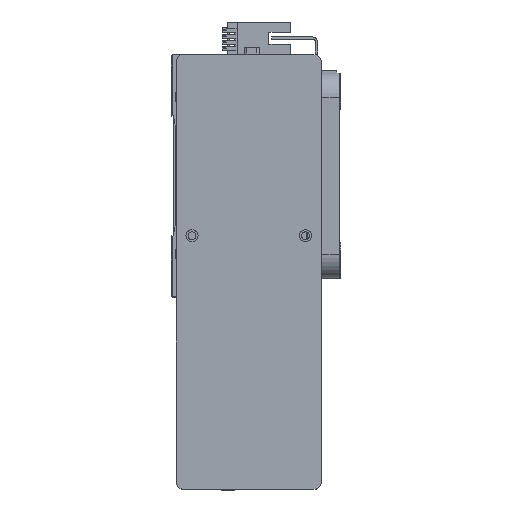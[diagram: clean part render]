
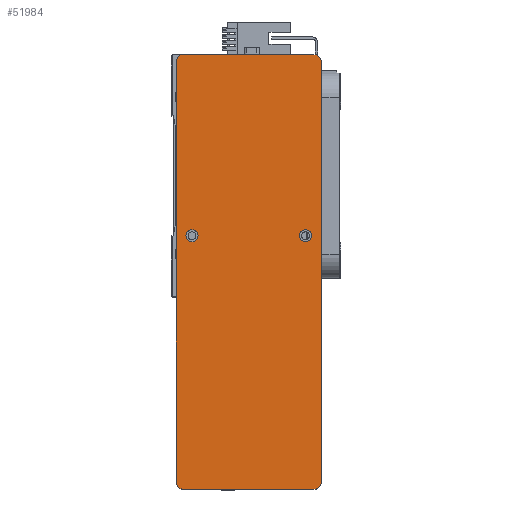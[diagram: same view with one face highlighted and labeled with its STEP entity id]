
A CAD part, top view. The second image highlights one B-rep face of the part: STEP entity #51984.
In plain terms, the highlighted planar face has unit normal (0, 0, 1) as drawn and (0, 0, -1) by its records, which use the part's own axes.
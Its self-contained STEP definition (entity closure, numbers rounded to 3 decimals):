
#741 = AXIS2_PLACEMENT_3D ( 'NONE', #51722, #43397, #31053 ) ;
#1926 = AXIS2_PLACEMENT_3D ( 'NONE', #9942, #39012, #14136 ) ;
#1995 = PLANE ( 'NONE',  #741 ) ;
#2786 = DIRECTION ( 'NONE',  ( 0., -1., 0. ) ) ;
#3484 = AXIS2_PLACEMENT_3D ( 'NONE', #46032, #21104, #50202 ) ;
#3496 = VERTEX_POINT ( 'NONE', #10729 ) ;
#3522 = AXIS2_PLACEMENT_3D ( 'NONE', #14704, #43780, #18860 ) ;
#4067 = ORIENTED_EDGE ( 'NONE', *, *, #53053, .F. ) ;
#5760 = CARTESIAN_POINT ( 'NONE',  ( -17.5, -23.5, 0. ) ) ;
#6059 = FACE_BOUND ( 'NONE', #16009, .T. ) ;
#6401 = VERTEX_POINT ( 'NONE', #46030 ) ;
#7070 = EDGE_CURVE ( 'NONE', #52345, #20797, #11061, .T. ) ;
#7365 = FACE_OUTER_BOUND ( 'NONE', #18679, .T. ) ;
#7536 = CARTESIAN_POINT ( 'NONE',  ( -12.5, -23.5, 0. ) ) ;
#7772 = AXIS2_PLACEMENT_3D ( 'NONE', #14327, #43383, #18484 ) ;
#7853 = LINE ( 'NONE', #30561, #39722 ) ;
#8781 = ORIENTED_EDGE ( 'NONE', *, *, #26679, .T. ) ;
#9433 = VERTEX_POINT ( 'NONE', #40214 ) ;
#9942 = CARTESIAN_POINT ( 'NONE',  ( -15., 23.5, 0. ) ) ;
#10729 = CARTESIAN_POINT ( 'NONE',  ( -90., 27., 0. ) ) ;
#11061 = LINE ( 'NONE', #13825, #22059 ) ;
#11770 = CIRCLE ( 'NONE', #19869, 3. ) ;
#12182 = DIRECTION ( 'NONE',  ( 0., 0., -1. ) ) ;
#12398 = ORIENTED_EDGE ( 'NONE', *, *, #27667, .F. ) ;
#13284 = CARTESIAN_POINT ( 'NONE',  ( 87., -27., 0. ) ) ;
#13825 = CARTESIAN_POINT ( 'NONE',  ( 90., -30., 0. ) ) ;
#14114 = CARTESIAN_POINT ( 'NONE',  ( 87., -30., 0. ) ) ;
#14136 = DIRECTION ( 'NONE',  ( -1., 0., 0. ) ) ;
#14327 = CARTESIAN_POINT ( 'NONE',  ( -87., 27., 0. ) ) ;
#14704 = CARTESIAN_POINT ( 'NONE',  ( -15., 23.5, 0. ) ) ;
#14861 = VERTEX_POINT ( 'NONE', #40530 ) ;
#14914 = CIRCLE ( 'NONE', #23504, 2.5 ) ;
#15615 = ORIENTED_EDGE ( 'NONE', *, *, #24277, .T. ) ;
#16009 = EDGE_LOOP ( 'NONE', ( #12398, #28710 ) ) ;
#16089 = EDGE_CURVE ( 'NONE', #30108, #28040, #14914, .T. ) ;
#16711 = CARTESIAN_POINT ( 'NONE',  ( -12.5, 23.5, 0. ) ) ;
#16730 = VERTEX_POINT ( 'NONE', #30671 ) ;
#17432 = DIRECTION ( 'NONE',  ( 1., 0., 0. ) ) ;
#18484 = DIRECTION ( 'NONE',  ( 1., 0., 0. ) ) ;
#18679 = EDGE_LOOP ( 'NONE', ( #35436, #8781, #4067, #34406, #18917, #19315, #46879, #15615 ) ) ;
#18860 = DIRECTION ( 'NONE',  ( -1., 0., 0. ) ) ;
#18917 = ORIENTED_EDGE ( 'NONE', *, *, #19392, .F. ) ;
#19315 = ORIENTED_EDGE ( 'NONE', *, *, #28020, .T. ) ;
#19392 = EDGE_CURVE ( 'NONE', #3496, #9433, #53016, .T. ) ;
#19869 = AXIS2_PLACEMENT_3D ( 'NONE', #13284, #42338, #17432 ) ;
#20326 = CARTESIAN_POINT ( 'NONE',  ( -15., -23.5, 0. ) ) ;
#20572 = ORIENTED_EDGE ( 'NONE', *, *, #34055, .F. ) ;
#20788 = DIRECTION ( 'NONE',  ( -1., 0., 0. ) ) ;
#20797 = VERTEX_POINT ( 'NONE', #49840 ) ;
#21104 = DIRECTION ( 'NONE',  ( 0., 0., -1. ) ) ;
#22059 = VECTOR ( 'NONE', #22098, 1000. ) ;
#22098 = DIRECTION ( 'NONE',  ( 0., 1., 0. ) ) ;
#23504 = AXIS2_PLACEMENT_3D ( 'NONE', #37081, #12182, #41299 ) ;
#23571 = DIRECTION ( 'NONE',  ( 0., 0., -1. ) ) ;
#24277 = EDGE_CURVE ( 'NONE', #43783, #20797, #32281, .T. ) ;
#24545 = DIRECTION ( 'NONE',  ( -1., 0., 0. ) ) ;
#25740 = VERTEX_POINT ( 'NONE', #14114 ) ;
#25897 = CIRCLE ( 'NONE', #49855, 2.5 ) ;
#26160 = EDGE_CURVE ( 'NONE', #6401, #9433, #40515, .T. ) ;
#26679 = EDGE_CURVE ( 'NONE', #52345, #25740, #11770, .T. ) ;
#27667 = EDGE_CURVE ( 'NONE', #28040, #30108, #25897, .T. ) ;
#28020 = EDGE_CURVE ( 'NONE', #3496, #14861, #47281, .T. ) ;
#28040 = VERTEX_POINT ( 'NONE', #5760 ) ;
#28710 = ORIENTED_EDGE ( 'NONE', *, *, #16089, .F. ) ;
#29475 = CIRCLE ( 'NONE', #3522, 2.5 ) ;
#29497 = VERTEX_POINT ( 'NONE', #16711 ) ;
#30108 = VERTEX_POINT ( 'NONE', #7536 ) ;
#30287 = CARTESIAN_POINT ( 'NONE',  ( 87., 30., 0. ) ) ;
#30561 = CARTESIAN_POINT ( 'NONE',  ( 90., -30., 0. ) ) ;
#30671 = CARTESIAN_POINT ( 'NONE',  ( -17.5, 23.5, 0. ) ) ;
#31053 = DIRECTION ( 'NONE',  ( 1., 0., 0. ) ) ;
#32281 = CIRCLE ( 'NONE', #48593, 3. ) ;
#34055 = EDGE_CURVE ( 'NONE', #29497, #16730, #40891, .T. ) ;
#34406 = ORIENTED_EDGE ( 'NONE', *, *, #26160, .T. ) ;
#35436 = ORIENTED_EDGE ( 'NONE', *, *, #7070, .F. ) ;
#37081 = CARTESIAN_POINT ( 'NONE',  ( -15., -23.5, 0. ) ) ;
#37349 = CARTESIAN_POINT ( 'NONE',  ( 90., 30., 0. ) ) ;
#38547 = DIRECTION ( 'NONE',  ( 1., 0., 0. ) ) ;
#39012 = DIRECTION ( 'NONE',  ( 0., 0., -1. ) ) ;
#39217 = FACE_BOUND ( 'NONE', #47139, .T. ) ;
#39722 = VECTOR ( 'NONE', #38547, 1000. ) ;
#40214 = CARTESIAN_POINT ( 'NONE',  ( -90., -27., 0. ) ) ;
#40515 = CIRCLE ( 'NONE', #3484, 3. ) ;
#40530 = CARTESIAN_POINT ( 'NONE',  ( -87., 30., 0. ) ) ;
#40891 = CIRCLE ( 'NONE', #1926, 2.5 ) ;
#41299 = DIRECTION ( 'NONE',  ( -1., 0., 0. ) ) ;
#42338 = DIRECTION ( 'NONE',  ( 0., 0., -1. ) ) ;
#43312 = VECTOR ( 'NONE', #2786, 1000. ) ;
#43383 = DIRECTION ( 'NONE',  ( 0., 0., -1. ) ) ;
#43397 = DIRECTION ( 'NONE',  ( 0., 0., 1. ) ) ;
#43780 = DIRECTION ( 'NONE',  ( 0., 0., -1. ) ) ;
#43783 = VERTEX_POINT ( 'NONE', #30287 ) ;
#45358 = EDGE_CURVE ( 'NONE', #43783, #14861, #48144, .T. ) ;
#46030 = CARTESIAN_POINT ( 'NONE',  ( -87., -30., 0. ) ) ;
#46032 = CARTESIAN_POINT ( 'NONE',  ( -87., -27., 0. ) ) ;
#46479 = ORIENTED_EDGE ( 'NONE', *, *, #52008, .F. ) ;
#46830 = VECTOR ( 'NONE', #20788, 1000. ) ;
#46879 = ORIENTED_EDGE ( 'NONE', *, *, #45358, .F. ) ;
#47139 = EDGE_LOOP ( 'NONE', ( #46479, #20572 ) ) ;
#47281 = CIRCLE ( 'NONE', #7772, 3. ) ;
#48144 = LINE ( 'NONE', #37349, #46830 ) ;
#48450 = CARTESIAN_POINT ( 'NONE',  ( 87., 27., 0. ) ) ;
#48593 = AXIS2_PLACEMENT_3D ( 'NONE', #48450, #23571, #52596 ) ;
#49410 = DIRECTION ( 'NONE',  ( 0., 0., -1. ) ) ;
#49840 = CARTESIAN_POINT ( 'NONE',  ( 90., 27., 0. ) ) ;
#49855 = AXIS2_PLACEMENT_3D ( 'NONE', #20326, #49410, #24545 ) ;
#49886 = CARTESIAN_POINT ( 'NONE',  ( 90., -27., 0. ) ) ;
#50202 = DIRECTION ( 'NONE',  ( 1., 0., 0. ) ) ;
#51722 = CARTESIAN_POINT ( 'NONE',  ( 0., 0., 0. ) ) ;
#51984 = ADVANCED_FACE ( 'NONE', ( #39217, #6059, #7365 ), #1995, .F. ) ;
#52008 = EDGE_CURVE ( 'NONE', #16730, #29497, #29475, .T. ) ;
#52345 = VERTEX_POINT ( 'NONE', #49886 ) ;
#52515 = CARTESIAN_POINT ( 'NONE',  ( -90., -30., 0. ) ) ;
#52596 = DIRECTION ( 'NONE',  ( 1., 0., 0. ) ) ;
#53016 = LINE ( 'NONE', #52515, #43312 ) ;
#53053 = EDGE_CURVE ( 'NONE', #6401, #25740, #7853, .T. ) ;
